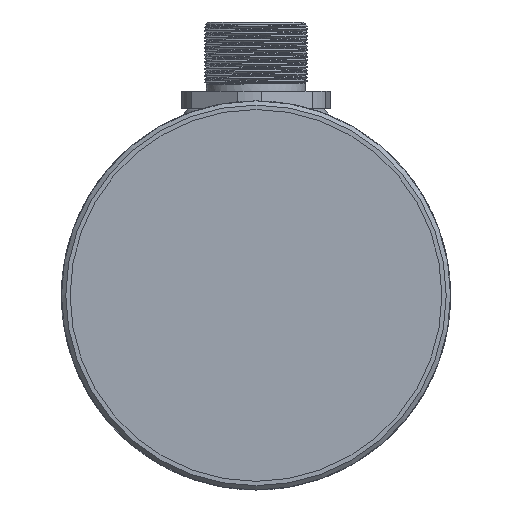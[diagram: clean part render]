
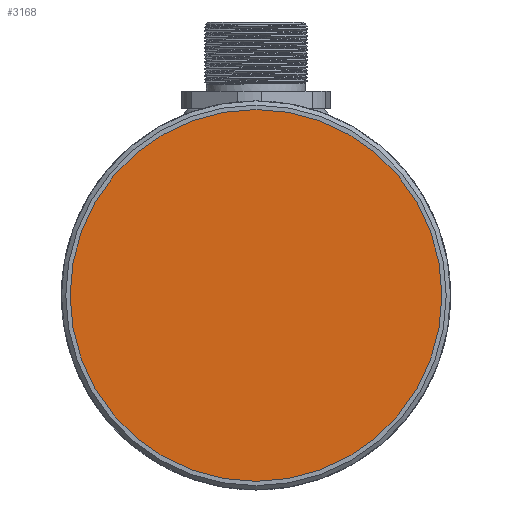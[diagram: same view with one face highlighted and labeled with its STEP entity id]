
A CAD part, left-side view. The second image highlights one B-rep face of the part: STEP entity #3168.
In plain terms, the highlighted planar face has unit normal (-1, 0, 0).
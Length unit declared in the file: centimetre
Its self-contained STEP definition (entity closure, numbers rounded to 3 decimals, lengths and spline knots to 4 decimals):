
#671=PLANE('',#3369);
#1200=VERTEX_POINT('',#3917);
#1431=CIRCLE('',#3368,2.15);
#1552=EDGE_CURVE('',#1200,#1200,#1431,.T.);
#1964=ORIENTED_EDGE('',*,*,#1552,.T.);
#2717=EDGE_LOOP('',(#1964));
#2946=FACE_BOUND('',#2717,.T.);
#3168=ADVANCED_FACE('',(#2946),#671,.T.);
#3368=AXIS2_PLACEMENT_3D('',#3916,#15487,#15488);
#3369=AXIS2_PLACEMENT_3D('',#3918,#15489,$);
#3916=CARTESIAN_POINT('',(0.1,0.,0.));
#3917=CARTESIAN_POINT('',(0.1,0.,2.15));
#3918=CARTESIAN_POINT('',(0.1,0.,0.));
#15487=DIRECTION('',(-1.,0.,0.));
#15488=DIRECTION('',(0.,0.,2.15));
#15489=DIRECTION('',(-1.,0.,0.));
